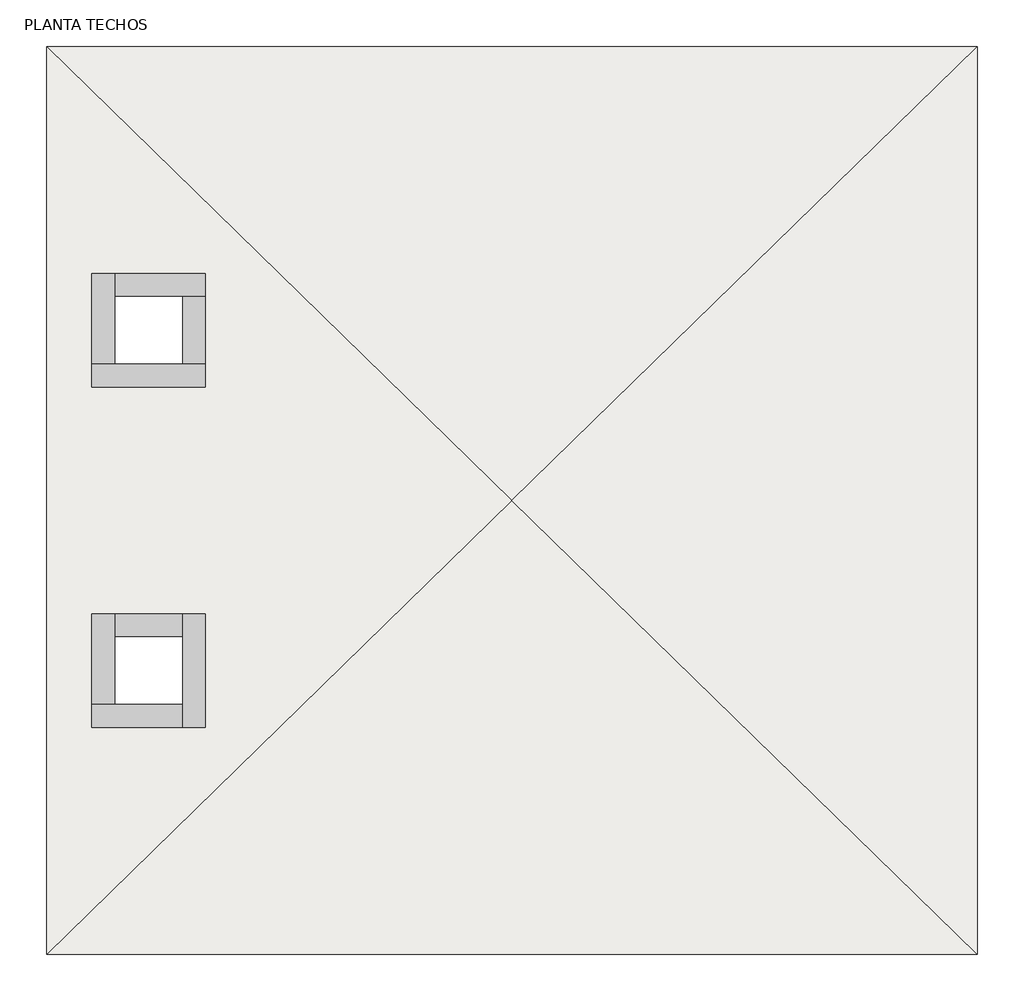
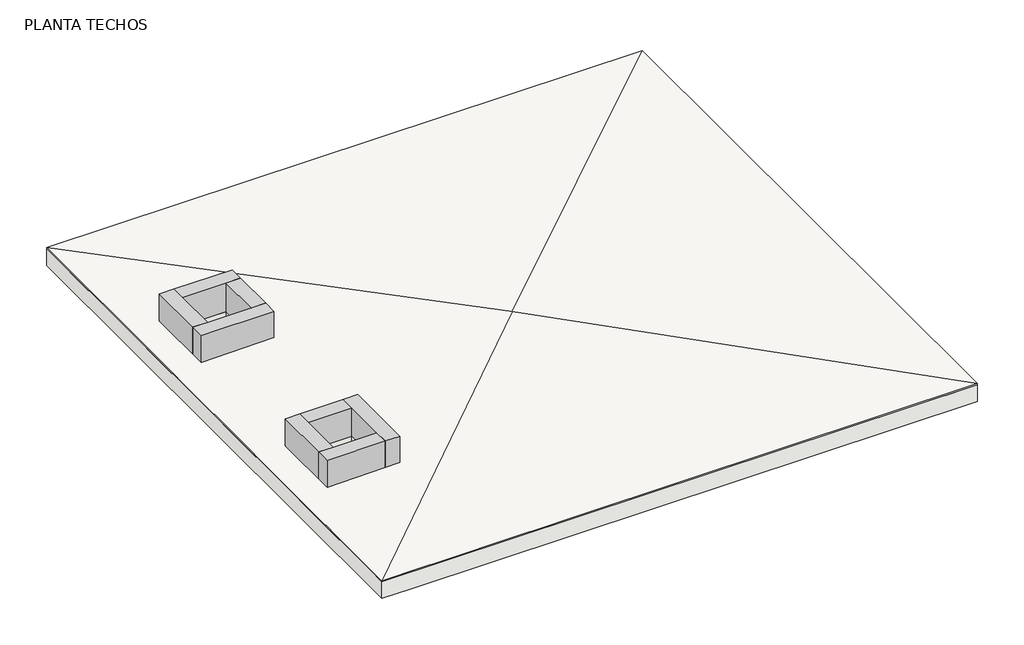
# One storey: 8 beams, 2 slabs.
"""IFC4 building model written with IfcOpenShell, lengths in millimetres."""

from ifc_helpers import new_model, si_unit, frame, origin, place, context, project, spatial, polyline, outline, extrude, faceted_brep, element, save

model = new_model("IFC4")

# Units and contexts
model_context = context("Model", 3, world=origin())
ifc_project = project(units=[si_unit("LENGTHUNIT", "METRE", prefix="MILLI")], contexts=[model_context])

# Site, building, storey
site = spatial("IfcSite", under=ifc_project)
building = spatial("IfcBuilding", under=site)
storey = spatial("IfcBuildingStorey", under=building, Name="PLANTA TECHOS", Elevation=9930.0)

# Beams
placement = place(None, origin())
element("IfcBeam", 1, ObjectType="ARES-I-HA-Viga rectangular-PET : Viga-10x33cm-PET", at=placement, inside=storey, context=model_context, shape_type="Brep", body=[
    faceted_brep([(4874.4126343, 14970.2304035, 10140.0), (4974.4126343, 14970.2304035, 10140.0), (4974.4126343, 15470.2304035, 10140.0), (4874.4126343, 15470.2304035, 10140.0), (4874.4126343, 15370.2304035, 10140.0), (4874.4126343, 15070.2304035, 10140.0), (4974.4126343, 14970.2304035, 9930.0), (4974.4126343, 15470.2304035, 9930.0), (4874.4126343, 15470.2304035, 9930.0), (4874.4126343, 15370.2304035, 9930.0), (4874.4126343, 15070.2304035, 9930.0), (4874.4126343, 14970.2304035, 9930.0)], [[[0, 1, 2, 3, 4, 5]], [[2, 1, 6, 7]], [[0, 5, 4, 3, 8, 9, 10, 11]], [[1, 0, 11, 6]], [[3, 2, 7, 8]], [[7, 6, 11, 10, 9, 8]]]),
])
element("IfcBeam", 2, ObjectType="ARES-I-HA-Viga rectangular-PET : Viga-10x33cm-PET", at=placement, inside=storey, context=model_context, shape_type="Brep", body=[
    faceted_brep([(4874.4126343, 14970.2304035, 10140.0), (4874.4126343, 15070.2304035, 10140.0), (4574.4126343, 15070.2304035, 10140.0), (4474.4126343, 15070.2304035, 10140.0), (4474.4126343, 14970.2304035, 10140.0), (4474.4126343, 14970.2304035, 9930.0), (4874.4126343, 14970.2304035, 9930.0), (4874.4126343, 15070.2304035, 9930.0), (4574.4126343, 15070.2304035, 9930.0), (4474.4126343, 15070.2304035, 9930.0)], [[[0, 1, 2, 3, 4]], [[0, 4, 5, 6]], [[3, 2, 1, 7, 8, 9]], [[1, 0, 6, 7]], [[4, 3, 9, 5]], [[6, 5, 9, 8, 7]]]),
])
element("IfcBeam", 3, ObjectType="ARES-I-HA-Viga rectangular-PET : Viga-10x33cm-PET", at=placement, inside=storey, context=model_context, shape_type="Brep", body=[
    faceted_brep([(4474.4126343, 15070.2304035, 10140.0), (4574.4126343, 15070.2304035, 10140.0), (4574.4126343, 15370.2304035, 10140.0), (4574.4126343, 15470.2304035, 10140.0), (4474.4126343, 15470.2304035, 10140.0), (4474.4126343, 15470.2304035, 9930.0), (4474.4126343, 15070.2304035, 9930.0), (4574.4126343, 15070.2304035, 9930.0), (4574.4126343, 15370.2304035, 9930.0), (4574.4126343, 15470.2304035, 9930.0)], [[[0, 1, 2, 3, 4]], [[0, 4, 5, 6]], [[3, 2, 1, 7, 8, 9]], [[1, 0, 6, 7]], [[4, 3, 9, 5]], [[6, 5, 9, 8, 7]]]),
])
element("IfcBeam", 4, ObjectType="ARES-I-HA-Viga rectangular-PET : Viga-10x33cm-PET", at=placement, inside=storey, context=model_context, shape_type="SweptSolid", body=[
    extrude(outline(polyline([(4574.4126343, 15470.2304035), (4874.4126343, 15470.2304035), (4874.4126343, 15370.2304035), (4574.4126343, 15370.2304035), (4574.4126343, 15470.2304035)])), frame((0.0, 0.0, 9930.0), z_axis=(0.0, 0.0, 1.0), x_axis=(1.0, 0.0, 0.0)), (0.0, 0.0, 1.0), 210.0),
])
element("IfcBeam", 5, ObjectType="ARES-I-HA-Viga rectangular-PET : Viga-10x33cm-PET", at=placement, inside=storey, context=model_context, shape_type="Brep", body=[
    faceted_brep([(4474.4126343, 16570.2304035, 10140.0), (4474.4126343, 16470.2304035, 10140.0), (4974.4126343, 16470.2304035, 10140.0), (4974.4126343, 16570.2304035, 10140.0), (4874.4126343, 16570.2304035, 10140.0), (4574.4126343, 16570.2304035, 10140.0), (4474.4126343, 16470.2304035, 9930.0), (4974.4126343, 16470.2304035, 9930.0), (4974.4126343, 16570.2304035, 9930.0), (4874.4126343, 16570.2304035, 9930.0), (4574.4126343, 16570.2304035, 9930.0), (4474.4126343, 16570.2304035, 9930.0)], [[[0, 1, 2, 3, 4, 5]], [[2, 1, 6, 7]], [[0, 5, 4, 3, 8, 9, 10, 11]], [[1, 0, 11, 6]], [[3, 2, 7, 8]], [[7, 6, 11, 10, 9, 8]]]),
])
element("IfcBeam", 6, ObjectType="ARES-I-HA-Viga rectangular-PET : Viga-10x33cm-PET", at=placement, inside=storey, context=model_context, shape_type="Brep", body=[
    faceted_brep([(4474.4126343, 16570.2304035, 10140.0), (4574.4126343, 16570.2304035, 10140.0), (4574.4126343, 16870.2304035, 10140.0), (4574.4126343, 16970.2304035, 10140.0), (4474.4126343, 16970.2304035, 10140.0), (4474.4126343, 16970.2304035, 9930.0), (4474.4126343, 16570.2304035, 9930.0), (4574.4126343, 16570.2304035, 9930.0), (4574.4126343, 16870.2304035, 9930.0), (4574.4126343, 16970.2304035, 9930.0)], [[[0, 1, 2, 3, 4]], [[0, 4, 5, 6]], [[3, 2, 1, 7, 8, 9]], [[1, 0, 6, 7]], [[4, 3, 9, 5]], [[6, 5, 9, 8, 7]]]),
])
element("IfcBeam", 7, ObjectType="ARES-I-HA-Viga rectangular-PET : Viga-10x33cm-PET", at=placement, inside=storey, context=model_context, shape_type="Brep", body=[
    faceted_brep([(4574.4126343, 16970.2304035, 10140.0), (4574.4126343, 16870.2304035, 10140.0), (4874.4126343, 16870.2304035, 10140.0), (4974.4126343, 16870.2304035, 10140.0), (4974.4126343, 16970.2304035, 10140.0), (4974.4126343, 16970.2304035, 9930.0), (4574.4126343, 16970.2304035, 9930.0), (4574.4126343, 16870.2304035, 9930.0), (4874.4126343, 16870.2304035, 9930.0), (4974.4126343, 16870.2304035, 9930.0)], [[[0, 1, 2, 3, 4]], [[0, 4, 5, 6]], [[3, 2, 1, 7, 8, 9]], [[1, 0, 6, 7]], [[4, 3, 9, 5]], [[6, 5, 9, 8, 7]]]),
])
element("IfcBeam", 8, ObjectType="ARES-I-HA-Viga rectangular-PET : Viga-10x33cm-PET", at=placement, inside=storey, context=model_context, shape_type="SweptSolid", body=[
    extrude(outline(polyline([(4974.4126343, 16870.2304035), (4974.4126343, 16570.2304035), (4874.4126343, 16570.2304035), (4874.4126343, 16870.2304035), (4974.4126343, 16870.2304035)])), frame((0.0, 0.0, 9930.0), z_axis=(0.0, 0.0, 1.0), x_axis=(1.0, 0.0, 0.0)), (0.0, 0.0, 1.0), 210.0),
])

# Slabs
element("IfcSlab", 9, ObjectType="Alisado AyP con hidrófugo", at=placement, inside=storey, context=model_context, shape_type="Brep", body=[
    faceted_brep([(4274.4126343, 13970.2304035, 9930.0), (4274.4126343, 17970.2304035, 9930.0), (8374.4126343, 17970.2304035, 9930.0), (8374.4126343, 13970.2304035, 9930.0), (4474.4126343, 14970.2304035, 9930.0), (4974.4126343, 14970.2304035, 9930.0), (4974.4126343, 15470.2304035, 9930.0), (4474.4126343, 15470.2304035, 9930.0), (4474.4126343, 16470.2304035, 9930.0), (4974.4126343, 16470.2304035, 9930.0), (4974.4126343, 16970.2304035, 9930.0), (4474.4126343, 16970.2304035, 9930.0), (4274.4126343, 13970.2304035, 9940.0), (4274.4126343, 17970.2304035, 9940.0), (8374.4126343, 17970.2304035, 9940.0), (8374.4126343, 13970.2304035, 9940.0), (6324.4126343, 15970.2304035, 9970.0), (4474.4126343, 16470.2304035, 9942.9268293), (4474.4126343, 16970.2304035, 9942.9268293), (4974.4126343, 16970.2304035, 9950.2439024), (4974.4126343, 16470.2304035, 9950.2439024), (4474.4126343, 14970.2304035, 9942.9268293), (4474.4126343, 15470.2304035, 9942.9268293), (4974.4126343, 15470.2304035, 9950.2439024), (4974.4126343, 14970.2304035, 9950.2439024)], [[[0, 1, 2, 3], [4, 5, 6, 7], [8, 9, 10, 11]], [[1, 0, 12, 13]], [[2, 1, 13, 14]], [[3, 2, 14, 15]], [[0, 3, 15, 12]], [[15, 14, 16]], [[13, 12, 16], [17, 18, 19, 20], [21, 22, 23, 24]], [[14, 13, 16]], [[15, 16, 12]], [[5, 4, 21, 24]], [[6, 5, 24, 23]], [[7, 6, 23, 22]], [[4, 7, 22, 21]], [[9, 8, 17, 20]], [[10, 9, 20, 19]], [[11, 10, 19, 18]], [[8, 11, 18, 17]]]),
])
element("IfcSlab", 10, ObjectType="LOSA-INT-HA-12cm-PET", at=placement, inside=storey, context=model_context, shape_type="Brep", body=[
    faceted_brep([(8374.4126343, 17970.2304035, 9810.0), (8374.4126343, 17770.2304035, 9810.0), (8374.4126343, 14170.2304035, 9810.0), (8374.4126343, 13970.2304035, 9810.0), (4474.4126343, 13970.2304035, 9810.0), (4274.4126343, 13970.2304035, 9810.0), (4274.4126343, 17970.2304035, 9810.0), (4474.4126343, 17970.2304035, 9810.0), (4574.4126343, 15070.2304035, 9810.0), (4874.4126343, 15070.2304035, 9810.0), (4874.4126343, 15370.2304035, 9810.0), (4574.4126343, 15370.2304035, 9810.0), (4574.4126343, 16870.2304035, 9810.0), (4574.4126343, 16570.2304035, 9810.0), (4874.4126343, 16570.2304035, 9810.0), (4874.4126343, 16870.2304035, 9810.0), (8374.4126343, 17970.2304035, 9930.0), (4274.4126343, 17970.2304035, 9930.0), (4274.4126343, 13970.2304035, 9930.0), (8374.4126343, 13970.2304035, 9930.0), (4574.4126343, 15070.2304035, 9930.0), (4574.4126343, 15370.2304035, 9930.0), (4874.4126343, 15370.2304035, 9930.0), (4874.4126343, 15070.2304035, 9930.0), (4574.4126343, 16870.2304035, 9930.0), (4874.4126343, 16870.2304035, 9930.0), (4874.4126343, 16570.2304035, 9930.0), (4574.4126343, 16570.2304035, 9930.0)], [[[0, 1, 2, 3, 4, 5, 6, 7], [8, 9, 10, 11], [12, 13, 14, 15]], [[16, 17, 18, 19], [20, 21, 22, 23], [24, 25, 26, 27]], [[3, 2, 1, 0, 16, 19]], [[5, 4, 3, 19, 18]], [[6, 5, 18, 17]], [[0, 7, 6, 17, 16]], [[9, 8, 20, 23]], [[10, 9, 23, 22]], [[11, 10, 22, 21]], [[8, 11, 21, 20]], [[13, 12, 24, 27]], [[14, 13, 27, 26]], [[15, 14, 26, 25]], [[12, 15, 25, 24]]]),
])

save(model, "model.ifc")
